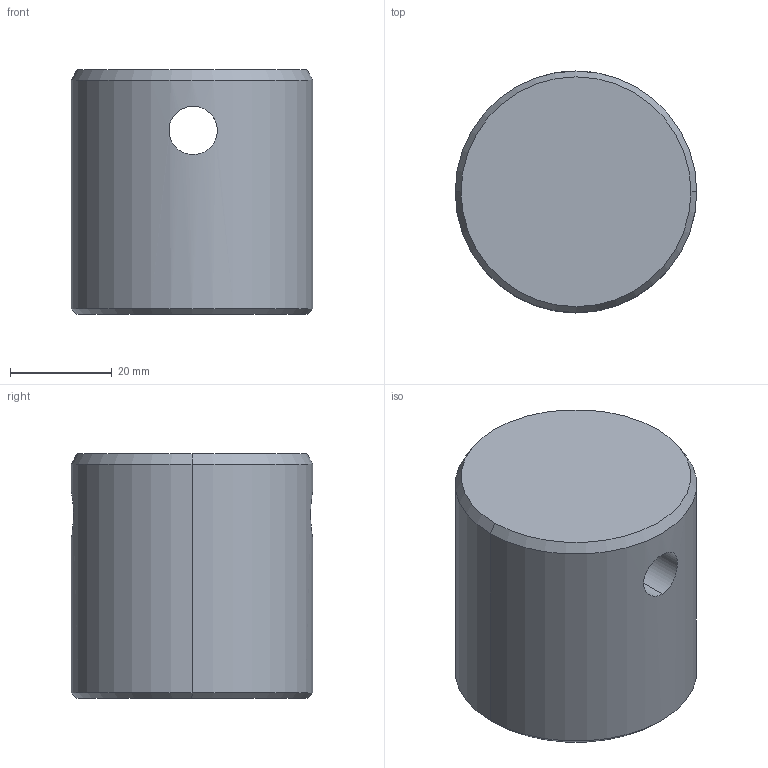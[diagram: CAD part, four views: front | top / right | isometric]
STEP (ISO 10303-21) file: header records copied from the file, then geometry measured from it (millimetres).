
FILE_DESCRIPTION (( 'STEP AP203' ), '1' );
FILE_NAME ('DKDK-350-0046 耐磨棒（350）.STEP', '2026-05-11T10:15:50', ( 'Windows 用户' ), ( '' ), 'SwSTEP 2.0', 'SolidWorks 2020', '' );
FILE_SCHEMA (( 'CONFIG_CONTROL_DESIGN' ));
Length unit declared in the file: millimetre
Products named in the file (1): DKDK-350-0046 耐磨棒（350）
Bounding box: 47.5 x 47.5 x 48 mm (x, y, z)
Volume: 81465.7 mm3; surface area: 11748.7 mm2
Topology: 1 solids, 1 shells, 10 faces, 20 edges, 12 vertices
Faces by surface type: cone 4, cylinder 4, plane 2
Entity records: 465 total; most frequent: CARTESIAN_POINT 175, DIRECTION 46, ORIENTED_EDGE 40, EDGE_CURVE 20, AXIS2_PLACEMENT_3D 19, EDGE_LOOP 12, VERTEX_POINT 12, FACE_OUTER_BOUND 10
